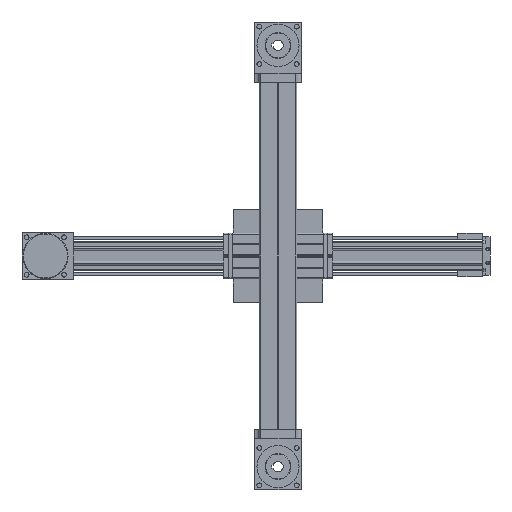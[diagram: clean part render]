
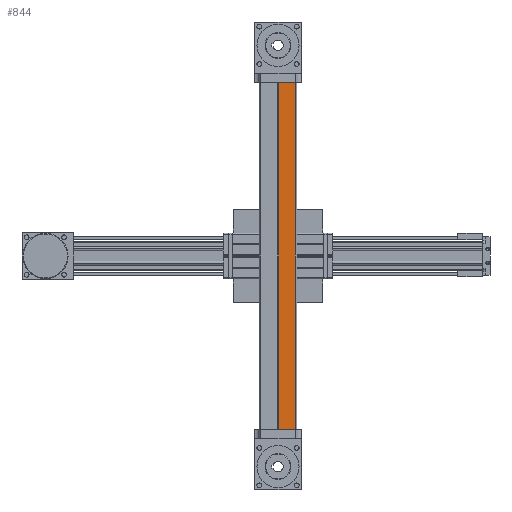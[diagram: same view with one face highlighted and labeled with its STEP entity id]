
A CAD part, left-side view. The second image highlights one B-rep face of the part: STEP entity #844.
In plain terms, the highlighted planar face has unit normal (-1, 0, 0) as drawn and (0, 0, 1) by its records, which use the part's own axes.
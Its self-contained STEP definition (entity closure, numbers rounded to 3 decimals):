
#437 = VECTOR ( 'NONE', #27585, 1000. ) ;
#844 = ADVANCED_FACE ( 'NONE', ( #4693 ), #25313, .T. ) ;
#2047 = ORIENTED_EDGE ( 'NONE', *, *, #30541, .F. ) ;
#2510 = VECTOR ( 'NONE', #14720, 1000. ) ;
#4122 = VERTEX_POINT ( 'NONE', #11376 ) ;
#4693 = FACE_OUTER_BOUND ( 'NONE', #34178, .T. ) ;
#5907 = CARTESIAN_POINT ( 'NONE',  ( 370., 0.05, 131. ) ) ;
#7393 = AXIS2_PLACEMENT_3D ( 'NONE', #15314, #14788, #20250 ) ;
#8020 = CARTESIAN_POINT ( 'NONE',  ( 370., 0., 131. ) ) ;
#8182 = VERTEX_POINT ( 'NONE', #20975 ) ;
#9333 = ORIENTED_EDGE ( 'NONE', *, *, #23305, .F. ) ;
#10406 = DIRECTION ( 'NONE',  ( -1., 0., 0. ) ) ;
#10807 = DIRECTION ( 'NONE',  ( 0., 1., 0. ) ) ;
#11376 = CARTESIAN_POINT ( 'NONE',  ( -370., 0.05, 131. ) ) ;
#11486 = EDGE_CURVE ( 'NONE', #32125, #8182, #24470, .T. ) ;
#12156 = VECTOR ( 'NONE', #10406, 1000. ) ;
#12838 = EDGE_CURVE ( 'NONE', #8182, #33667, #15480, .T. ) ;
#14720 = DIRECTION ( 'NONE',  ( 0., 1., 0. ) ) ;
#14788 = DIRECTION ( 'NONE',  ( 0., 0., 1. ) ) ;
#15314 = CARTESIAN_POINT ( 'NONE',  ( 370., 0., 131. ) ) ;
#15480 = LINE ( 'NONE', #28784, #12156 ) ;
#20250 = DIRECTION ( 'NONE',  ( 0., -1., 0. ) ) ;
#20975 = CARTESIAN_POINT ( 'NONE',  ( 370., 37., 131. ) ) ;
#22779 = LINE ( 'NONE', #25762, #2510 ) ;
#23305 = EDGE_CURVE ( 'NONE', #32125, #4122, #23773, .T. ) ;
#23773 = LINE ( 'NONE', #5907, #437 ) ;
#24470 = LINE ( 'NONE', #8020, #27350 ) ;
#25313 = PLANE ( 'NONE',  #7393 ) ;
#25623 = CARTESIAN_POINT ( 'NONE',  ( -370., 37., 131. ) ) ;
#25762 = CARTESIAN_POINT ( 'NONE',  ( -370., 0., 131. ) ) ;
#27350 = VECTOR ( 'NONE', #10807, 1000. ) ;
#27471 = ORIENTED_EDGE ( 'NONE', *, *, #12838, .T. ) ;
#27585 = DIRECTION ( 'NONE',  ( -1., 0., 0. ) ) ;
#28784 = CARTESIAN_POINT ( 'NONE',  ( 370., 37., 131. ) ) ;
#30541 = EDGE_CURVE ( 'NONE', #4122, #33667, #22779, .T. ) ;
#32125 = VERTEX_POINT ( 'NONE', #32329 ) ;
#32329 = CARTESIAN_POINT ( 'NONE',  ( 370., 0.05, 131. ) ) ;
#33641 = ORIENTED_EDGE ( 'NONE', *, *, #11486, .T. ) ;
#33667 = VERTEX_POINT ( 'NONE', #25623 ) ;
#34178 = EDGE_LOOP ( 'NONE', ( #2047, #9333, #33641, #27471 ) ) ;
